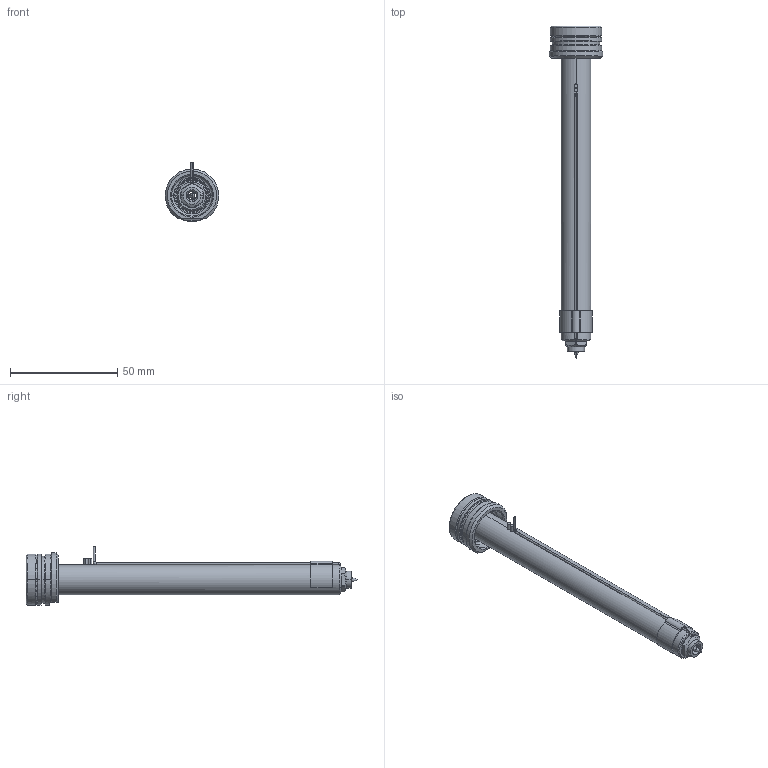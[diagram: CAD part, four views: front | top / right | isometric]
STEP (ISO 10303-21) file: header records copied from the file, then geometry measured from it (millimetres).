
FILE_DESCRIPTION((''),'2;1');
FILE_NAME('EO04_PG-BL_STD_140_SW','2024-02-19T10:58:33',('sundharh'),(''),'CREO PARAMETRIC BY PTC INC, 2023154','CREO PARAMETRIC BY PTC INC, 2023154','');
FILE_SCHEMA(('CONFIG_CONTROL_DESIGN'));
Length unit declared in the file: millimetre
Products named in the file (1): EO04_PG-BL_STD_140_SW
Bounding box: 24.99 x 155 x 27.5 mm (x, y, z)
Volume: 24965.8 mm3; surface area: 12157.9 mm2
Topology: 2 solids, 2 shells, 222 faces, 595 edges, 364 vertices
Faces by surface type: cylinder 84, plane 59, cone 44, torus 22, bspline 11, sphere 2
Entity records: 8291 total; most frequent: CARTESIAN_POINT 2687, DIRECTION 1217, ORIENTED_EDGE 1178, EDGE_CURVE 589, AXIS2_PLACEMENT_3D 510, VERTEX_POINT 364, CIRCLE 299, EDGE_LOOP 237
